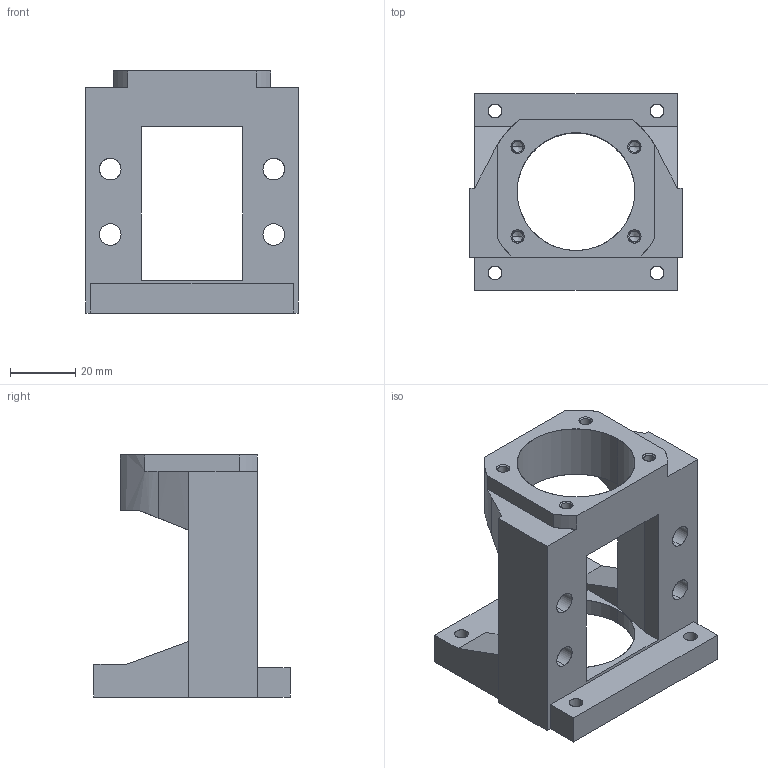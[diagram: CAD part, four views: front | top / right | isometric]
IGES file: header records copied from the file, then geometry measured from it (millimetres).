
Start section: SolidWorks IGES file using analytic representation for surfaces
Bounding box: 65 x 60 x 74 mm (x, y, z)
Surface area: 25442.4 mm2 (no closed solid volume)
Topology: 0 solids, 0 shells, 106 faces, 1764 edges, 1756 vertices
Faces by surface type: revolution 68, bspline 38
